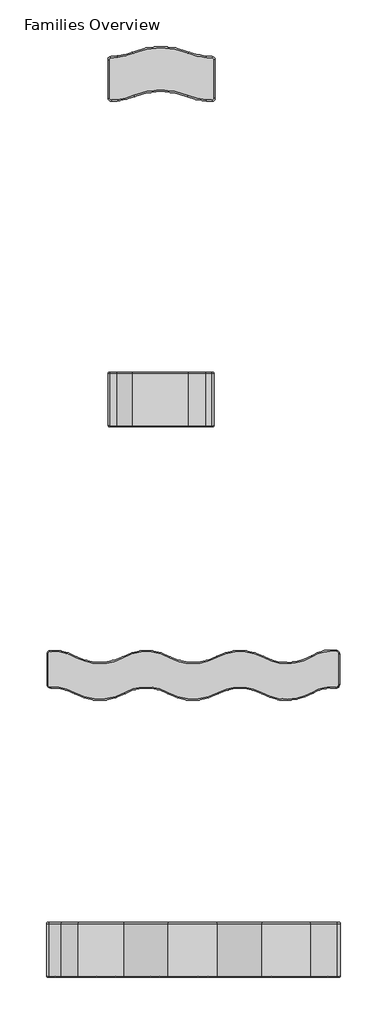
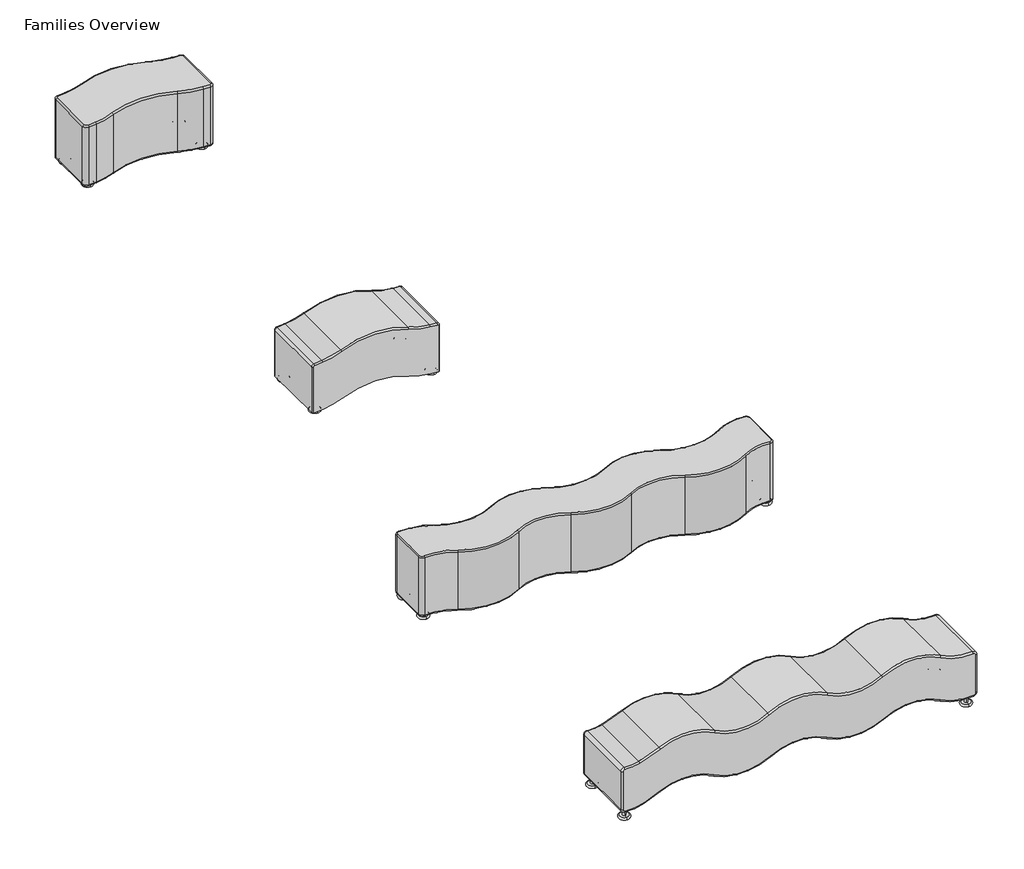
# One storey: 4 furniture elements.
"""IFC4 building model written with IfcOpenShell, lengths in millimetres."""

from ifc_helpers import new_model, si_unit, origin, place, context, project, spatial, transform, mapped, element, save
from components import bench_6f9ae0b0, bench_b9d89473, bench_4ffe46dd, bench_71243dd2, bench_e00897dc, bench_4e8ea6fa

model = new_model("IFC4")

# Units and contexts
model_context = context("Model", 3, world=origin())
ifc_project = project(units=[si_unit("LENGTHUNIT", "METRE", prefix="MILLI")], contexts=[model_context])

# Site, building, storey
site = spatial("IfcSite", under=ifc_project)
building = spatial("IfcBuilding", under=site)
storey = spatial("IfcBuildingStorey", under=building, Name="Families Overview", Elevation=0.0)

# Furniture
placement = place(None, origin())
bench_shape = bench_6f9ae0b0(model_context)
element("IfcFurniture", 1, ObjectType="Steelcase Coalesse - Ripple - Seating - Little Ripple Flat Bench : Bench", at=placement, inside=storey, context=model_context, shape_type="MappedRepresentation", body=[
    mapped(bench_shape, transform((-29776.4963114, 30287.7752935, 0.0), x_axis=(1.0, 0.0, 0.0), y_axis=(0.0, 1.0, 0.0), z_axis=(0.0, 0.0, 1.0))),
])
bench_2_shape = bench_b9d89473(model_context)
element("IfcFurniture", 2, ObjectType="Steelcase Coalesse - Ripple - Seating - Little Ripple Wave Bench : Bench", at=placement, inside=storey, context=model_context, shape_type="MappedRepresentation", body=[
    mapped(bench_2_shape, transform((-29776.4963114, 27575.4926709, 0.0), x_axis=(1.0, 0.0, 0.0), y_axis=(0.0, 1.0, 0.0), z_axis=(0.0, 0.0, 1.0))),
])
bench_3_shape = bench_4ffe46dd(model_context)
bench_4_shape = bench_71243dd2(model_context)
element("IfcFurniture", 3, ObjectType="Steelcase Coalesse - Ripple - Seating - Upholstered Flat Bench : Bench", at=placement, inside=storey, context=model_context, shape_type="MappedRepresentation", body=[
    mapped(bench_3_shape, transform((-30284.4963114, 25254.8694468, 0.0), x_axis=(1.0, 0.0, 0.0), y_axis=(0.0, 1.0, 0.0), z_axis=(0.0, 0.0, 1.0))),
    mapped(bench_4_shape, transform((-30284.4963114, 25254.8694468, 0.0), x_axis=(1.0, 0.0, 0.0), y_axis=(0.0, 1.0, 0.0), z_axis=(0.0, 0.0, 1.0))),
])
bench_5_shape = bench_e00897dc(model_context)
bench_6_shape = bench_4e8ea6fa(model_context)
element("IfcFurniture", 4, ObjectType="Steelcase Coalesse - Ripple - Seating - Upholstered Wave Bench : Bench", at=placement, inside=storey, context=model_context, shape_type="MappedRepresentation", body=[
    mapped(bench_5_shape, transform((-30284.4963114, 22989.2727915, 0.0), x_axis=(1.0, 0.0, 0.0), y_axis=(0.0, 1.0, 0.0), z_axis=(0.0, 0.0, 1.0))),
    mapped(bench_6_shape, transform((-30284.4963114, 22989.2727915, 0.0), x_axis=(1.0, 0.0, 0.0), y_axis=(0.0, 1.0, 0.0), z_axis=(0.0, 0.0, 1.0))),
])

save(model, "model.ifc")
